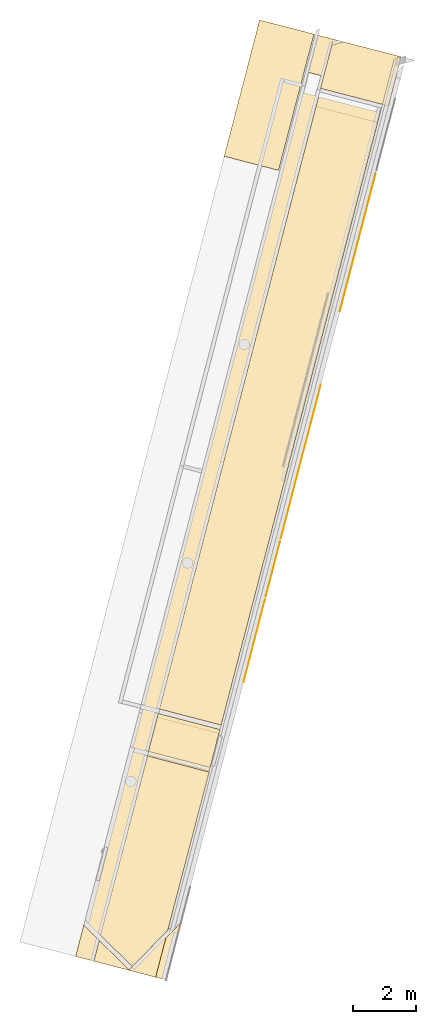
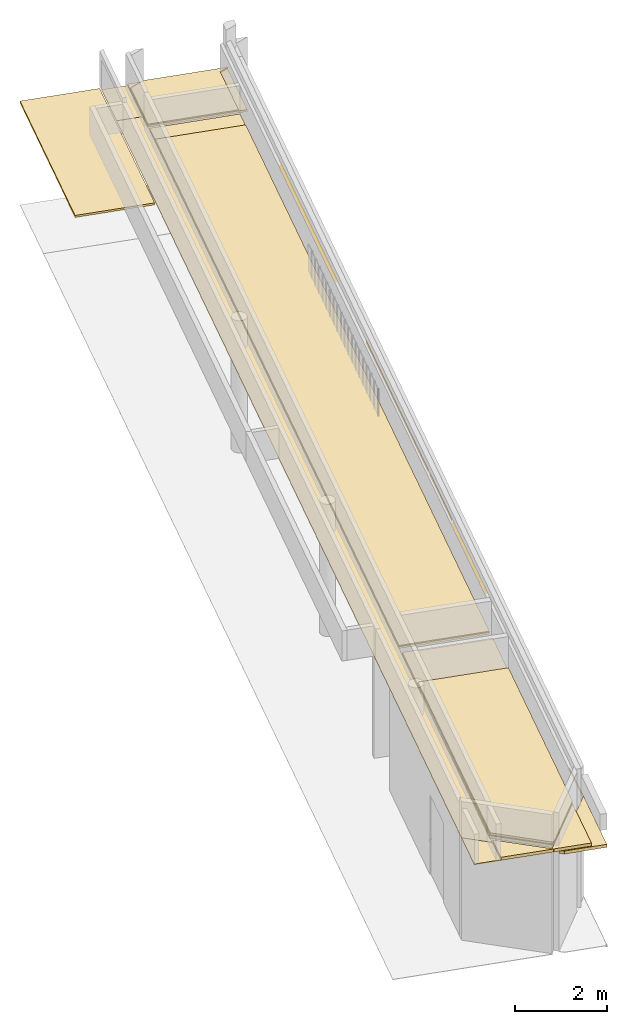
# One storey, part 9 of 9: 17 coverings.
"""IFC2X3 building model written with IfcOpenShell, lengths in millimetres."""

from ifc_helpers import new_model, entity, si_unit, converted_unit, derived_unit, direction, frame, frame_2d, origin, origin_with_axes, place, context, subcontext, project, spatial, polyline, rectangle, outline, extrude, faceted_brep, material, layer, layer_set, layer_usage, type_object, element, save


model = new_model("IFC2X3")

# Units and contexts
plan_context = context("Plan", 3, precision=1e-05, world=origin_with_axes())
model_context = context("Model", 3, precision=0.01, world=origin(), true_north=direction((6.12323399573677e-17, 1.0)))
body_context = subcontext(model_context, "Body", "Model", "MODEL_VIEW")
ifc_project = project(units=[converted_unit("PLANEANGLEUNIT", "DEGREE", entity("IfcPositiveLengthMeasure", 0.0174532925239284), si_unit("PLANEANGLEUNIT", "RADIAN"), dimensions=[0, 0, 0, 0, 0, 0, 0]), si_unit("AREAUNIT", "SQUARE_METRE"), si_unit("LENGTHUNIT", "METRE", prefix="MILLI"), si_unit("MASSUNIT", "GRAM", prefix="KILO"), si_unit("POWERUNIT", "WATT"), si_unit("PRESSUREUNIT", "PASCAL", prefix="KILO"), si_unit("FORCEUNIT", "NEWTON", prefix="KILO"), si_unit("ELECTRICVOLTAGEUNIT", "VOLT"), si_unit("ELECTRICCURRENTUNIT", "AMPERE"), si_unit("THERMODYNAMICTEMPERATUREUNIT", "DEGREE_CELSIUS"), si_unit("TIMEUNIT", "SECOND"), si_unit("VOLUMEUNIT", "CUBIC_METRE"), derived_unit("LINEARVELOCITYUNIT", [(si_unit("LENGTHUNIT", "METRE"), 1), (si_unit("TIMEUNIT", "SECOND"), -1)]), derived_unit("VOLUMETRICFLOWRATEUNIT", [(si_unit("VOLUMEUNIT", "CUBIC_METRE"), 1), (si_unit("TIMEUNIT", "SECOND"), -1)]), derived_unit("THERMALTRANSMITTANCEUNIT", [(si_unit("POWERUNIT", "WATT"), 1), (si_unit("THERMODYNAMICTEMPERATUREUNIT", "KELVIN"), -1), (si_unit("AREAUNIT", "SQUARE_METRE"), -1)]), derived_unit("SOUNDPRESSUREUNIT", [(si_unit("PRESSUREUNIT", "PASCAL"), 1)])], contexts=[model_context, plan_context])

# Site, building, storey
site_placement = place(None, frame((0.0, -2.21771188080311e-09, 0.0), z_axis=(0.0, 0.0, 1.0), x_axis=(0.266093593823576, -0.963947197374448, 0.0)))
site = spatial("IfcSite", under=ifc_project, at=site_placement, Name="ENZV", CompositionType="ELEMENT")
building_placement = place(site_placement, origin_with_axes())
building = spatial("IfcBuilding", under=site, at=building_placement, Name="ZV001", CompositionType="ELEMENT")
storey_placement = place(building_placement, frame((0.0, 0.0, 5100.0), z_axis=(0.0, 0.0, 1.0), x_axis=(1.0, 0.0, 0.0)))
storey = spatial("IfcBuildingStorey", under=building, at=storey_placement, Name="H01", CompositionType="ELEMENT", Elevation=5100.0)

# Coverings
ifc_material_1 = material(Name="Standard")
ifc_layer_1 = layer(ifc_material_1, 36.0)
ifc_material_2 = material(Name="Systemhimling 600x600mm")
ifc_layer_2 = layer(ifc_material_2, 16.0)
ifc_layer_set_1 = layer_set([ifc_layer_1, ifc_layer_2], Name="Compound Ceiling:ENZV_H03_Hygienehimling 600x600mm")
ifc_layer_usage_1 = layer_usage(ifc_layer_set_1, "AXIS3", "NEGATIVE", 52.0)
covering_type_1 = type_object("IfcCoveringType", Name="Compound Ceiling:ENZV_H03_Hygienehimling 600x600mm", PredefinedType="CEILING")
covering_1_placement = place(storey_placement, origin_with_axes())
element("IfcCovering", 1, at=covering_1_placement, inside=storey, type_object=covering_type_1, material=ifc_layer_usage_1, Name="Compound Ceiling:ENZV_H03_Hygienehimling 600x600mm", ObjectType="Compound Ceiling:ENZV_H03_Hygienehimling 600x600mm", PredefinedType="CEILING", context=body_context, shape_type="SweptSolid", body=[
    extrude(outline(polyline([(262.560491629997, -2576.37938345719), (1682.10593395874, -2576.37938345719), (1682.1059261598, -960.28774318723), (-931.197802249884, 3565.76653696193), (-2695.57454949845, 2547.27997313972), (262.560491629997, -2576.37938345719)])), frame((-157890.842598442, 378599.778452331, 2800.0), z_axis=(0.0, 0.0, 1.0), x_axis=(0.866025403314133, 0.500000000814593, 0.0)), (0.0, 0.0, 1.0), 52.0000000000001),
])
covering_2_placement = place(storey_placement, origin_with_axes())
element("IfcCovering", 2, at=covering_2_placement, inside=storey, type_object=covering_type_1, Name="Compound Ceiling:ENZV_H03_Hygienehimling 600x600mm", ObjectType="Compound Ceiling:ENZV_H03_Hygienehimling 600x600mm", PredefinedType="CEILING", context=body_context, shape_type="Brep", body=[
    faceted_brep([(-177446.086528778, 391416.532307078, 2700.0), (-177446.086528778, 391416.532307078, 2752.0), (-173535.969708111, 389159.025362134, 2752.0), (-173535.969708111, 389159.025362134, 2700.0), (-173535.900498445, 389159.145237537, 2752.0), (-173535.900498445, 389159.145237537, 2700.0)], [[[0, 1, 2, 3]], [[4, 5, 3, 2]], [[5, 0, 3]], [[1, 4, 2]], [[5, 4, 1, 0]]], orient=[[False], [False], [False], [False], [False]]),
])
ifc_layer_3 = layer(ifc_material_1, 64.0)
ifc_layer_4 = layer(ifc_material_2, 16.0)
ifc_layer_set_2 = layer_set([ifc_layer_3, ifc_layer_4], Name="Compound Ceiling:ENZV_H01_Perf gipshimling 600x600mm")
ifc_layer_usage_2 = layer_usage(ifc_layer_set_2, "AXIS3", "NEGATIVE", 80.0)
covering_type_2 = type_object("IfcCoveringType", Name="Compound Ceiling:ENZV_H01_Perf gipshimling 600x600mm", PredefinedType="CEILING")
covering_3_placement = place(storey_placement, origin_with_axes())
element("IfcCovering", 3, at=covering_3_placement, inside=storey, type_object=covering_type_2, material=ifc_layer_usage_2, Name="Compound Ceiling:ENZV_H01_Perf gipshimling 600x600mm", ObjectType="Compound Ceiling:ENZV_H01_Perf gipshimling 600x600mm", PredefinedType="CEILING", context=body_context, shape_type="SweptSolid", body=[
    extrude(outline(polyline([(-1018.78595763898, -9932.54954330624), (1019.40766567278, -9932.54954330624), (1018.78595187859, 9932.47292982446), (-1019.40765991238, 9932.62615678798), (-1018.78595763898, -9932.54954330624)])), frame((-170925.569886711, 386075.507475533, 2700.0), z_axis=(0.0, 0.0, 1.0), x_axis=(-0.499999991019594, -0.866025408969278, 0.0)), (0.0, 0.0, 1.0), 80.0000000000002),
    extrude(outline(polyline([(240.795759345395, -2576.21719479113), (1677.51305649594, -2576.21719479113), (1677.51305649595, -971.479101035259), (-910.537865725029, 3567.87987368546), (-2685.2840066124, 2556.03361693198), (240.795759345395, -2576.21719479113)])), frame((-157886.783955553, 378601.934431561, 2700.0), z_axis=(0.0, 0.0, 1.0), x_axis=(0.866025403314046, 0.500000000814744, 0.0)), (0.0, 0.0, 1.0), 80.0000000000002),
    extrude(rectangle(XDim=2038.4054183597, YDim=1249.94696680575, at=frame_2d((-3.86535248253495e-11, -2.38742359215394e-12), x_axis=(1.0, 0.0))), frame((-161552.859541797, 380664.668836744, 2700.0), z_axis=(0.0, 0.0, 1.0), x_axis=(0.499996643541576, 0.866027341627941, 0.0)), (0.0, 0.0, 1.0), 80.0000000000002),
])
covering_4_placement = place(storey_placement, origin_with_axes())
element("IfcCovering", 4, at=covering_4_placement, inside=storey, type_object=covering_type_2, Name="Compound Ceiling:ENZV_H01_Perf gipshimling 600x600mm", ObjectType="Compound Ceiling:ENZV_H01_Perf gipshimling 600x600mm", PredefinedType="CEILING", context=body_context, shape_type="Brep", body=[
    faceted_brep([(-155636.279592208, 376073.115119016, 2780.0), (-155636.279592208, 376073.115119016, 2700.0), (-156231.124348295, 376416.549187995, 2700.0), (-156231.124348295, 376416.549187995, 2780.0), (-155042.307117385, 377101.978491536, 2700.0), (-155042.307117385, 377101.978491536, 2780.0)], [[[0, 1, 2, 3]], [[4, 5, 3, 2]], [[1, 4, 2]], [[5, 0, 3]], [[5, 4, 1, 0]]], orient=[[False], [False], [False], [False], [False]]),
])
covering_5_placement = place(storey_placement, origin_with_axes())
element("IfcCovering", 5, at=covering_5_placement, inside=storey, type_object=covering_type_2, Name="Compound Ceiling:ENZV_H01_Perf gipshimling 600x600mm", ObjectType="Compound Ceiling:ENZV_H01_Perf gipshimling 600x600mm", PredefinedType="CEILING", context=body_context, shape_type="Brep", body=[
    faceted_brep([(-180824.940466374, 393213.185048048, 2780.0), (-180824.940466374, 393213.185048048, 2700.0), (-180824.958589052, 392967.463057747, 2700.0), (-180824.958589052, 392967.463057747, 2780.0), (-181778.261437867, 391561.899128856, 2700.0), (-181778.261437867, 391561.899128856, 2780.0), (-181778.261437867, 391166.280911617, 2780.0), (-181778.261437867, 391166.280911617, 2700.0), (-180546.159852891, 390454.926746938, 2780.0), (-180546.159852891, 390454.926746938, 2700.0), (-179528.864378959, 392219.215713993, 2780.0), (-179528.864378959, 392219.215713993, 2700.0), (-180824.940464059, 393213.216443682, 2700.0), (-180824.940464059, 393213.216443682, 2780.0)], [[[0, 1, 2, 3]], [[4, 5, 6, 7]], [[7, 6, 8, 9]], [[9, 8, 10, 11]], [[11, 10, 3, 2]], [[1, 4, 7, 9, 11, 2]], [[5, 0, 3, 10, 8, 6]], [[5, 4, 12, 13]]], orient=[[False], [False], [False], [False], [False], [False], [False], [False]]),
])
covering_6_placement = place(storey_placement, origin_with_axes())
element("IfcCovering", 6, at=covering_6_placement, inside=storey, type_object=covering_type_2, Name="Compound Ceiling:ENZV_H01_Perf gipshimling 600x600mm", ObjectType="Compound Ceiling:ENZV_H01_Perf gipshimling 600x600mm", PredefinedType="CEILING", context=body_context, shape_type="Brep", body=[
    faceted_brep([(-171434.720836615, 387946.114511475, 2700.0), (-171434.720836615, 387946.114511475, 2780.0), (-171434.80577152, 387945.967398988, 2780.0), (-171434.80577152, 387945.967398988, 2700.0), (-167052.546694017, 385415.901391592, 2780.0), (-167052.546694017, 385415.901391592, 2700.0), (-167052.398217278, 385416.158560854, 2780.0), (-167052.398217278, 385416.158560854, 2700.0)], [[[0, 1, 2, 3]], [[3, 2, 4, 5]], [[6, 7, 5, 4]], [[7, 0, 3, 5]], [[1, 6, 4, 2]], [[7, 6, 1, 0]]], orient=[[False], [False], [False], [False], [False], [False]]),
])
covering_7_placement = place(storey_placement, origin_with_axes())
element("IfcCovering", 7, at=covering_7_placement, inside=storey, type_object=covering_type_2, Name="Compound Ceiling:ENZV_H01_Perf gipshimling 600x600mm", ObjectType="Compound Ceiling:ENZV_H01_Perf gipshimling 600x600mm", PredefinedType="CEILING", context=body_context, shape_type="Brep", body=[
    faceted_brep([(-165398.422428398, 384461.30282504, 2780.0), (-165398.422428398, 384461.30282504, 2700.0), (-165398.608201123, 384460.979182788, 2700.0), (-165398.608201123, 384460.979182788, 2780.0), (-166948.47332874, 385356.161747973, 2700.0), (-166948.47332874, 385356.161747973, 2780.0), (-166948.635171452, 385355.881428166, 2780.0), (-166948.635171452, 385355.881428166, 2700.0)], [[[0, 1, 2, 3]], [[4, 5, 6, 7]], [[7, 6, 3, 2]], [[1, 4, 7, 2]], [[5, 0, 3, 6]], [[5, 4, 1, 0]]], orient=[[False], [False], [False], [False], [False], [False]]),
])
covering_8_placement = place(storey_placement, origin_with_axes())
element("IfcCovering", 8, at=covering_8_placement, inside=storey, type_object=covering_type_2, Name="Compound Ceiling:ENZV_H01_Perf gipshimling 600x600mm", ObjectType="Compound Ceiling:ENZV_H01_Perf gipshimling 600x600mm", PredefinedType="CEILING", context=body_context, shape_type="Brep", body=[
    faceted_brep([(-157085.557724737, 379662.208063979, 2600.0), (-157085.557724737, 379662.208063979, 2680.0), (-157085.950846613, 379661.5271569, 2680.0), (-157085.950846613, 379661.5271569, 2600.0), (-156091.450815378, 379087.352309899, 2680.0), (-156091.450815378, 379087.352309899, 2600.0), (-155029.483379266, 377247.970779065, 2680.0), (-155029.483379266, 377247.970779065, 2600.0), (-154922.298706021, 377309.85387984, 2680.0), (-154922.298706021, 377309.85387984, 2600.0), (-154444.492838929, 378137.496534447, 2600.0), (-154444.492838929, 378137.496534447, 2680.0)], [[[0, 1, 2, 3]], [[3, 2, 4, 5]], [[5, 4, 6, 7]], [[8, 9, 7, 6]], [[9, 10, 0, 3, 5, 7]], [[1, 11, 8, 6, 4, 2]], [[10, 9, 8, 11]], [[11, 1, 0, 10]]], orient=[[False], [False], [False], [False], [False], [False], [False], [False]]),
])
covering_9_placement = place(storey_placement, origin_with_axes())
element("IfcCovering", 9, at=covering_9_placement, inside=storey, type_object=covering_type_2, Name="Compound Ceiling:ENZV_H01_Perf gipshimling 600x600mm", ObjectType="Compound Ceiling:ENZV_H01_Perf gipshimling 600x600mm", PredefinedType="CEILING", context=body_context, shape_type="Brep", body=[
    faceted_brep([(-154617.572183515, 377837.693082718, 2700.0), (-154617.572183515, 377837.693082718, 2780.0), (-155954.015277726, 378609.234215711, 2780.0), (-155954.015277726, 378609.234215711, 2700.0), (-155074.914480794, 377084.510703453, 2780.0), (-155074.914480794, 377084.510703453, 2700.0), (-155041.154092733, 377103.975730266, 2780.0), (-155041.154092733, 377103.975730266, 2700.0)], [[[0, 1, 2, 3]], [[3, 2, 4, 5]], [[6, 7, 5, 4]], [[7, 0, 3, 5]], [[1, 6, 4, 2]], [[7, 6, 1, 0]]], orient=[[False], [False], [False], [False], [False], [False]]),
])
ifc_layer_5 = layer(ifc_material_1, 36.0)
ifc_layer_6 = layer(ifc_material_2, 16.0)
ifc_layer_set_3 = layer_set([ifc_layer_5, ifc_layer_6], Name="Compound Ceiling:Systemhimling 600x600mm")
ifc_layer_usage_3 = layer_usage(ifc_layer_set_3, "AXIS3", "NEGATIVE", 52.0)
covering_type_3 = type_object("IfcCoveringType", Name="Compound Ceiling:Systemhimling 600x600mm", PredefinedType="CEILING")
covering_10_placement = place(storey_placement, origin_with_axes())
element("IfcCovering", 10, at=covering_10_placement, inside=storey, type_object=covering_type_3, material=ifc_layer_usage_3, Name="Compound Ceiling:Systemhimling 600x600mm", ObjectType="Compound Ceiling:Systemhimling 600x600mm", PredefinedType="CEILING", context=body_context, shape_type="SweptSolid", body=[
    extrude(outline(polyline([(-1023.79341662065, -10167.250950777), (1012.69863052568, -10167.250950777), (1024.12133807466, 10166.603844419), (-1013.02655197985, 10167.898057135), (-1023.79341662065, -10167.250950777)])), frame((-171128.395703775, 386193.608589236, 2700.0), z_axis=(0.0, 0.0, 1.0), x_axis=(-0.499514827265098, -0.866305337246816, 0.0)), (0.0, 0.0, 1.0), 52.0000000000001),
])
ifc_layer_usage_4 = layer_usage(ifc_layer_set_3, "AXIS3", "NEGATIVE", 52.0)
covering_11_placement = place(storey_placement, origin_with_axes())
element("IfcCovering", 11, at=covering_11_placement, inside=storey, type_object=covering_type_3, material=ifc_layer_usage_4, Name="Compound Ceiling:Systemhimling 600x600mm", ObjectType="Compound Ceiling:Systemhimling 600x600mm", PredefinedType="CEILING", context=body_context, shape_type="SweptSolid", body=[
    extrude(outline(polyline([(-1018.52043404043, -625.0), (1018.63254880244, -625.0), (1018.54061368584, 625.0), (-1018.65272844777, 625.0), (-1018.52043404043, -625.0)])), frame((-161656.377789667, 380725.119934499, 2400.0), z_axis=(0.0, 0.0, 1.0), x_axis=(-0.500065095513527, -0.865987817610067, 0.0)), (0.0, 0.0, 1.0), 52.0000000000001),
])
covering_12_placement = place(storey_placement, origin_with_axes())
element("IfcCovering", 12, at=covering_12_placement, inside=storey, type_object=covering_type_3, Name="Compound Ceiling:Systemhimling 600x600mm", ObjectType="Compound Ceiling:Systemhimling 600x600mm", PredefinedType="CEILING", context=body_context, shape_type="Brep", body=[
    faceted_brep([(-179277.514600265, 386912.308434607, 2700.0), (-179277.514600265, 386912.308434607, 2752.0), (-178381.325693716, 388464.553153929, 2752.0), (-178381.325693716, 388464.553153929, 2700.0), (-182270.191519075, 390709.790885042, 2752.0), (-182270.191519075, 390709.790885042, 2700.0), (-183166.401673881, 389157.399416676, 2700.0), (-183166.401673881, 389157.399416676, 2752.0)], [[[0, 1, 2, 3]], [[4, 5, 3, 2]], [[5, 6, 0, 3]], [[1, 7, 4, 2]], [[6, 5, 4, 7]], [[7, 1, 0, 6]]], orient=[[False], [False], [False], [False], [False], [False]]),
])
covering_13_placement = place(storey_placement, origin_with_axes())
element("IfcCovering", 13, at=covering_13_placement, inside=storey, type_object=covering_type_3, Name="Compound Ceiling:Systemhimling 600x600mm", ObjectType="Compound Ceiling:Systemhimling 600x600mm", PredefinedType="CEILING", context=body_context, shape_type="Brep", body=[
    faceted_brep([(-181956.103267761, 391253.846226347, 2700.0), (-181956.103267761, 391253.846226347, 2752.0), (-180549.815452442, 390441.925782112, 2752.0), (-180549.815452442, 390441.925782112, 2700.0), (-179426.353611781, 392387.81926061, 2752.0), (-179426.353611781, 392387.81926061, 2700.0), (-180832.698202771, 393199.778694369, 2752.0), (-180832.698202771, 393199.778694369, 2700.0)], [[[0, 1, 2, 3]], [[3, 2, 4, 5]], [[6, 7, 5, 4]], [[7, 0, 3, 5]], [[1, 6, 4, 2]], [[7, 6, 1, 0]]], orient=[[False], [False], [False], [False], [False], [False]]),
])
ifc_material_3 = material(Name="Gips")
ifc_layer_7 = layer(ifc_material_3, 13.0)
ifc_layer_set_4 = layer_set([ifc_layer_7], Name="Compound Ceiling:ENZV_H04_Gipsplate 13mm")
ifc_layer_usage_5 = layer_usage(ifc_layer_set_4, "AXIS3", "NEGATIVE", 13.0)
covering_type_4 = type_object("IfcCoveringType", Name="Compound Ceiling:ENZV_H04_Gipsplate 13mm", PredefinedType="CEILING")
covering_14_placement = place(storey_placement, origin_with_axes())
element("IfcCovering", 14, at=covering_14_placement, inside=storey, type_object=covering_type_4, material=ifc_layer_usage_5, Name="Compound Ceiling:ENZV_H04_Gipsplate 13mm", ObjectType="Compound Ceiling:ENZV_H04_Gipsplate 13mm", PredefinedType="CEILING", context=body_context, shape_type="SweptSolid", body=[
    extrude(outline(polyline([(-14149.9796179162, -299.80824788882), (13976.8858937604, -299.80824788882), (14323.073341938, 299.808244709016), (-14149.9796177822, 299.808251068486), (-14149.9796179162, -299.80824788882)])), frame((-168783.858573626, 383317.835633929, 2700.0), z_axis=(0.0, 0.0, 1.0), x_axis=(0.866024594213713, -0.500001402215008, 0.0)), (0.0, 0.0, 1.0), 13.0000000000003),
])
covering_15_placement = place(storey_placement, origin_with_axes())
element("IfcCovering", 15, at=covering_15_placement, inside=storey, type_object=covering_type_4, Name="Compound Ceiling:ENZV_H04_Gipsplate 13mm", ObjectType="Compound Ceiling:ENZV_H04_Gipsplate 13mm", PredefinedType="CEILING", context=body_context, shape_type="Brep", body=[
    faceted_brep([(-156229.796891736, 376415.933661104, 2700.0), (-156229.796891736, 376415.933661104, 2713.0), (-156829.821363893, 376069.981108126, 2713.0), (-156829.821363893, 376069.981108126, 2700.0), (-155936.007015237, 375553.935223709, 2713.0), (-155936.007015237, 375553.935223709, 2700.0), (-155636.214692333, 376073.227536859, 2700.0), (-155636.214692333, 376073.227536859, 2713.0)], [[[0, 1, 2, 3]], [[4, 5, 3, 2]], [[6, 7, 1, 0]], [[5, 6, 0, 3]], [[7, 4, 2, 1]], [[7, 6, 5, 4]]], orient=[[False], [False], [False], [False], [False], [False]]),
])
covering_16_placement = place(storey_placement, origin_with_axes())
element("IfcCovering", 16, at=covering_16_placement, inside=storey, type_object=covering_type_4, Name="Compound Ceiling:ENZV_H04_Gipsplate 13mm", ObjectType="Compound Ceiling:ENZV_H04_Gipsplate 13mm", PredefinedType="CEILING", context=body_context, shape_type="Brep", body=[
    faceted_brep([(-182249.311583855, 390745.958555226, 2700.0), (-182249.311583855, 390745.958555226, 2713.0), (-181187.993418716, 390133.203935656, 2713.0), (-181187.993418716, 390133.203935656, 2700.0), (-180888.184328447, 390652.48657085, 2713.0), (-180888.184328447, 390652.48657085, 2700.0), (-181778.261437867, 391166.374751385, 2713.0), (-181778.261437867, 391166.374751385, 2700.0), (-181778.261437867, 391561.899128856, 2713.0), (-181778.261437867, 391561.899128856, 2700.0)], [[[0, 1, 2, 3]], [[3, 2, 4, 5]], [[5, 4, 6, 7]], [[8, 9, 7, 6]], [[9, 0, 3, 5, 7]], [[1, 8, 6, 4, 2]], [[9, 8, 1, 0]]], orient=[[False], [False], [False], [False], [False], [False], [False]]),
])
covering_17_placement = place(storey_placement, origin_with_axes())
element("IfcCovering", 17, at=covering_17_placement, inside=storey, type_object=covering_type_4, Name="Compound Ceiling:ENZV_H04_Gipsplate 13mm", ObjectType="Compound Ceiling:ENZV_H04_Gipsplate 13mm", PredefinedType="CEILING", context=body_context, shape_type="Brep", body=[
    faceted_brep([(-165302.995926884, 384406.212210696, 2700.0), (-165302.995926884, 384406.212210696, 2713.0), (-165303.23185116, 384405.803577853, 2713.0), (-165303.23185116, 384405.803577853, 2700.0), (-162943.257123, 383043.36803272, 2713.0), (-162943.257123, 383043.36803272, 2700.0), (-162943.021197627, 383043.77666493, 2713.0), (-162943.021197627, 383043.77666493, 2700.0)], [[[0, 1, 2, 3]], [[3, 2, 4, 5]], [[6, 7, 5, 4]], [[7, 0, 3, 5]], [[1, 6, 4, 2]], [[7, 6, 1, 0]]], orient=[[False], [False], [False], [False], [False], [False]]),
])

save(model, "model.ifc")
